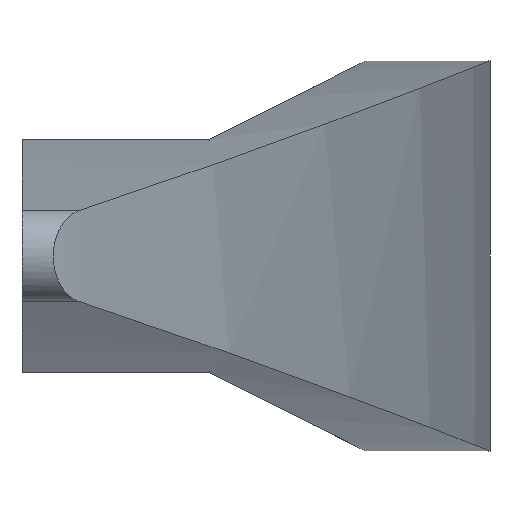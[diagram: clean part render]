
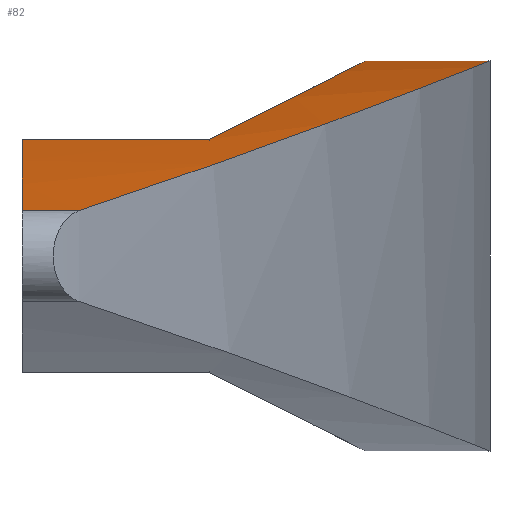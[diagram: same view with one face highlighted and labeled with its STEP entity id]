
A CAD part, left-side view. The second image highlights one B-rep face of the part: STEP entity #82.
In plain terms, the highlighted cylindrical face has radius 361.645 mm (diameter 723.289 mm), a partial arc.
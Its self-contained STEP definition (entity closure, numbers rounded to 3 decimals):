
#82 = ADVANCED_FACE( '', ( #106 ), #107, .T. );
#106 = FACE_OUTER_BOUND( '', #140, .T. );
#107 = CYLINDRICAL_SURFACE( '', #141, 361.645 );
#140 = EDGE_LOOP( '', ( #206, #207, #208, #209, #210, #211, #212, #213, #214 ) );
#141 = AXIS2_PLACEMENT_3D( '', #215, #216, #217 );
#206 = ORIENTED_EDGE( '', *, *, #305, .F. );
#207 = ORIENTED_EDGE( '', *, *, #304, .F. );
#208 = ORIENTED_EDGE( '', *, *, #306, .F. );
#209 = ORIENTED_EDGE( '', *, *, #307, .F. );
#210 = ORIENTED_EDGE( '', *, *, #308, .T. );
#211 = ORIENTED_EDGE( '', *, *, #309, .F. );
#212 = ORIENTED_EDGE( '', *, *, #310, .F. );
#213 = ORIENTED_EDGE( '', *, *, #311, .F. );
#214 = ORIENTED_EDGE( '', *, *, #312, .F. );
#215 = CARTESIAN_POINT( '', ( 64., -30., -349.145 ) );
#216 = DIRECTION( '', ( 0., -1., 0. ) );
#217 = DIRECTION( '', ( -0.229, 0., 0.974 ) );
#304 = EDGE_CURVE( '', #355, #349, #357, .T. );
#305 = EDGE_CURVE( '', #349, #358, #359, .T. );
#306 = EDGE_CURVE( '', #360, #355, #361, .T. );
#307 = EDGE_CURVE( '', #362, #360, #363, .T. );
#308 = EDGE_CURVE( '', #362, #364, #365, .T. );
#309 = EDGE_CURVE( '', #366, #364, #367, .T. );
#310 = EDGE_CURVE( '', #368, #366, #369, .T. );
#311 = EDGE_CURVE( '', #370, #368, #371, .T. );
#312 = EDGE_CURVE( '', #358, #370, #372, .T. );
#349 = VERTEX_POINT( '', #421 );
#355 = VERTEX_POINT( '', #443 );
#357 = LINE( '', #460, #461 );
#358 = VERTEX_POINT( '', #462 );
#359 = CIRCLE( '', #463, 361.645 );
#360 = VERTEX_POINT( '', #464 );
#361 = B_SPLINE_CURVE_WITH_KNOTS( '', 3, ( #465, #466, #467, #468, #469, #470, #471, #472, #473, #474, #475, #476, #477, #478, #479, #480, #481, #482 ), .UNSPECIFIED., .F., .F., ( 4, 2, 2, 2, 2, 2, 2, 2, 4 ), ( 89.699, 100.912, 112.124, 123.337, 134.549, 145.761, 156.974, 168.186, 174.198 ), .UNSPECIFIED. );
#362 = VERTEX_POINT( '', #483 );
#363 = B_SPLINE_CURVE_WITH_KNOTS( '', 3, ( #484, #485, #486, #487, #488, #489, #490, #491, #492, #493, #494, #495, #496, #497, #498, #499, #500, #501 ), .UNSPECIFIED., .F., .F., ( 4, 2, 2, 2, 2, 2, 2, 2, 4 ), ( 5.201, 11.212, 22.425, 33.637, 44.85, 56.062, 67.274, 78.487, 89.699 ), .UNSPECIFIED. );
#364 = VERTEX_POINT( '', #502 );
#365 = LINE( '', #503, #504 );
#366 = VERTEX_POINT( '', #505 );
#367 = CIRCLE( '', #506, 361.645 );
#368 = VERTEX_POINT( '', #507 );
#369 = LINE( '', #508, #509 );
#370 = VERTEX_POINT( '', #510 );
#371 = B_SPLINE_CURVE_WITH_KNOTS( '', 3, ( #511, #512, #513, #514, #515, #516, #517, #518, #519, #520, #521, #522, #523, #524, #525, #526, #527, #528, #529, #530, #531, #532, #533, #534, #535, #536 ), .UNSPECIFIED., .F., .F., ( 4, 2, 2, 2, 2, 2, 2, 2, 2, 2, 2, 2, 4 ), ( 28.553, 32.389, 43.186, 53.982, 64.779, 75.575, 86.372, 97.168, 107.965, 118.761, 129.558, 140.354, 144.191 ), .UNSPECIFIED. );
#372 = LINE( '', #537, #538 );
#421 = CARTESIAN_POINT( '', ( -18.686, 0., 2.921 ) );
#443 = CARTESIAN_POINT( '', ( -18.686, -3.675, 2.921 ) );
#460 = CARTESIAN_POINT( '', ( -18.686, -30., 2.921 ) );
#461 = VECTOR( '', #690, 1. );
#462 = CARTESIAN_POINT( '', ( 4., 0., 7.488 ) );
#463 = AXIS2_PLACEMENT_3D( '', #691, #692, #693 );
#464 = CARTESIAN_POINT( '', ( 64., -30., 12.5 ) );
#465 = CARTESIAN_POINT( '', ( 64., -30., 12.5 ) );
#466 = CARTESIAN_POINT( '', ( 60.263, -30., 12.5 ) );
#467 = CARTESIAN_POINT( '', ( 56.455, -29.853, 12.442 ) );
#468 = CARTESIAN_POINT( '', ( 48.77, -29.239, 12.2 ) );
#469 = CARTESIAN_POINT( '', ( 44.892, -28.772, 12.016 ) );
#470 = CARTESIAN_POINT( '', ( 37.131, -27.508, 11.521 ) );
#471 = CARTESIAN_POINT( '', ( 33.249, -26.711, 11.211 ) );
#472 = CARTESIAN_POINT( '', ( 25.542, -24.79, 10.47 ) );
#473 = CARTESIAN_POINT( '', ( 21.719, -23.665, 10.04 ) );
#474 = CARTESIAN_POINT( '', ( 14.191, -21.105, 9.074 ) );
#475 = CARTESIAN_POINT( '', ( 10.484, -19.669, 8.537 ) );
#476 = CARTESIAN_POINT( '', ( 3.24, -16.512, 7.378 ) );
#477 = CARTESIAN_POINT( '', ( -0.299, -14.79, 6.755 ) );
#478 = CARTESIAN_POINT( '', ( -7.157, -11.103, 5.448 ) );
#479 = CARTESIAN_POINT( '', ( -10.477, -9.137, 4.763 ) );
#480 = CARTESIAN_POINT( '', ( -15.379, -5.966, 3.685 ) );
#481 = CARTESIAN_POINT( '', ( -17.052, -4.832, 3.304 ) );
#482 = CARTESIAN_POINT( '', ( -18.686, -3.675, 2.921 ) );
#483 = CARTESIAN_POINT( '', ( 146.686, -3.675, 2.921 ) );
#484 = CARTESIAN_POINT( '', ( 146.686, -3.675, 2.921 ) );
#485 = CARTESIAN_POINT( '', ( 145.052, -4.832, 3.304 ) );
#486 = CARTESIAN_POINT( '', ( 143.379, -5.966, 3.685 ) );
#487 = CARTESIAN_POINT( '', ( 138.477, -9.137, 4.763 ) );
#488 = CARTESIAN_POINT( '', ( 135.157, -11.103, 5.448 ) );
#489 = CARTESIAN_POINT( '', ( 128.299, -14.79, 6.755 ) );
#490 = CARTESIAN_POINT( '', ( 124.76, -16.512, 7.378 ) );
#491 = CARTESIAN_POINT( '', ( 117.516, -19.669, 8.537 ) );
#492 = CARTESIAN_POINT( '', ( 113.809, -21.105, 9.074 ) );
#493 = CARTESIAN_POINT( '', ( 106.281, -23.665, 10.04 ) );
#494 = CARTESIAN_POINT( '', ( 102.458, -24.79, 10.47 ) );
#495 = CARTESIAN_POINT( '', ( 94.751, -26.711, 11.211 ) );
#496 = CARTESIAN_POINT( '', ( 90.869, -27.508, 11.521 ) );
#497 = CARTESIAN_POINT( '', ( 83.108, -28.772, 12.016 ) );
#498 = CARTESIAN_POINT( '', ( 79.23, -29.239, 12.2 ) );
#499 = CARTESIAN_POINT( '', ( 71.545, -29.853, 12.442 ) );
#500 = CARTESIAN_POINT( '', ( 67.737, -30., 12.5 ) );
#501 = CARTESIAN_POINT( '', ( 64., -30., 12.5 ) );
#502 = CARTESIAN_POINT( '', ( 146.686, 0., 2.921 ) );
#503 = CARTESIAN_POINT( '', ( 146.686, -30., 2.921 ) );
#504 = VECTOR( '', #694, 1. );
#505 = CARTESIAN_POINT( '', ( 124., 0., 7.488 ) );
#506 = AXIS2_PLACEMENT_3D( '', #695, #696, #697 );
#507 = CARTESIAN_POINT( '', ( 124., -12., 7.488 ) );
#508 = CARTESIAN_POINT( '', ( 124., -6., 7.488 ) );
#509 = VECTOR( '', #698, 1. );
#510 = CARTESIAN_POINT( '', ( 4., -12., 7.488 ) );
#511 = CARTESIAN_POINT( '', ( 4., -12., 7.488 ) );
#512 = CARTESIAN_POINT( '', ( 5.283, -12.44, 7.704 ) );
#513 = CARTESIAN_POINT( '', ( 6.575, -12.867, 7.914 ) );
#514 = CARTESIAN_POINT( '', ( 11.532, -14.445, 8.693 ) );
#515 = CARTESIAN_POINT( '', ( 15.249, -15.503, 9.219 ) );
#516 = CARTESIAN_POINT( '', ( 22.751, -17.384, 10.16 ) );
#517 = CARTESIAN_POINT( '', ( 26.538, -18.208, 10.575 ) );
#518 = CARTESIAN_POINT( '', ( 34.131, -19.614, 11.285 ) );
#519 = CARTESIAN_POINT( '', ( 37.937, -20.195, 11.58 ) );
#520 = CARTESIAN_POINT( '', ( 45.512, -21.113, 12.047 ) );
#521 = CARTESIAN_POINT( '', ( 49.282, -21.451, 12.22 ) );
#522 = CARTESIAN_POINT( '', ( 56.726, -21.895, 12.446 ) );
#523 = CARTESIAN_POINT( '', ( 60.401, -22., 12.5 ) );
#524 = CARTESIAN_POINT( '', ( 67.599, -22., 12.5 ) );
#525 = CARTESIAN_POINT( '', ( 71.274, -21.895, 12.446 ) );
#526 = CARTESIAN_POINT( '', ( 78.718, -21.451, 12.22 ) );
#527 = CARTESIAN_POINT( '', ( 82.488, -21.113, 12.047 ) );
#528 = CARTESIAN_POINT( '', ( 90.063, -20.195, 11.58 ) );
#529 = CARTESIAN_POINT( '', ( 93.869, -19.614, 11.285 ) );
#530 = CARTESIAN_POINT( '', ( 101.462, -18.208, 10.575 ) );
#531 = CARTESIAN_POINT( '', ( 105.249, -17.384, 10.16 ) );
#532 = CARTESIAN_POINT( '', ( 112.751, -15.503, 9.219 ) );
#533 = CARTESIAN_POINT( '', ( 116.468, -14.445, 8.693 ) );
#534 = CARTESIAN_POINT( '', ( 121.425, -12.867, 7.914 ) );
#535 = CARTESIAN_POINT( '', ( 122.717, -12.44, 7.704 ) );
#536 = CARTESIAN_POINT( '', ( 124., -12., 7.488 ) );
#537 = CARTESIAN_POINT( '', ( 4., -6., 7.488 ) );
#538 = VECTOR( '', #699, 1. );
#690 = DIRECTION( '', ( 0., 1., 0. ) );
#691 = CARTESIAN_POINT( '', ( 64., 0., -349.145 ) );
#692 = DIRECTION( '', ( 0., 1., 0. ) );
#693 = DIRECTION( '', ( -0.229, 0., 0.974 ) );
#694 = DIRECTION( '', ( 0., 1., 0. ) );
#695 = CARTESIAN_POINT( '', ( 64., 0., -349.145 ) );
#696 = DIRECTION( '', ( 0., 1., 0. ) );
#697 = DIRECTION( '', ( -0.229, 0., 0.974 ) );
#698 = DIRECTION( '', ( 0., 1., 0. ) );
#699 = DIRECTION( '', ( 0., -1., 0. ) );
